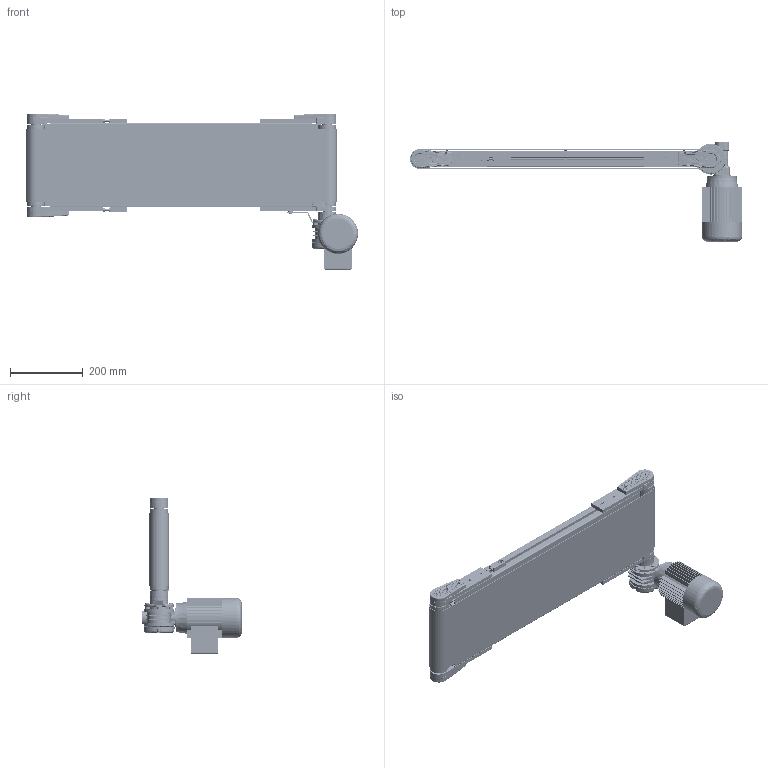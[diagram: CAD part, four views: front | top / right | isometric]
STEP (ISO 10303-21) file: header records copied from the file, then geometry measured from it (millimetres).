
FILE_DESCRIPTION (( 'STEP AP203' ), '1' );
FILE_NAME ('NASTRO_RETTILINEO_TAPPETO.step', '2026-06-04T12:06:02', ( 'Utente Windows' ), ( '' ), 'SwSTEP 2.0', 'SolidWorks 2024', '' );
FILE_SCHEMA (( 'CONFIG_CONTROL_DESIGN' ));
Length unit declared in the file: millimetre
Products named in the file (44): 084.302.000 DADI ALUSIC 13x13_084.302.004; TELAIO_50_STANDARD_Default<A macchina>; 084.303.001; VITI TSEI UNI 5933_M5x12 UNI 5933; 084.810.001; BLOCCO_RINVIO_50_STANDARD; 084.808.012; VITI TE UNI 5739_M6x16 UNI 5739; 084.802.008; 084.802.071; VITI TSEI UNI 5933_M4x10 UNI 5933; 084.802.061; VITE_DADO_M5X12; 084.811.004; VITI TCEI UNI 5931_M4x25 UNI 5931; 084.301.000 VITI ALUSIC_084.301.003; RONDELLE FASCIA LARGA UNI 6593_5.4x20 UNI 6593; 084.807.002_084.807.002; VITI TCEI UNI 5931_M6x12 UNI 5931; NASTRO_RETTILINEO_TAPPETO; 084.301.000 VITI ALUSIC_084.301.009; RULLO_50_Default<A macchina>; TAPPETO_STANDARD; CHIAVETTE_A 5x5x20 UNI 6604-69; LAMIERA_STANDARD; 084.802.017_084.802.017; BLOCCO_BRACCIO_CH03P_VF30P; 084.302.000 DADI ALUSIC 13x13-1_084.302.004; CH03P_SX; VITE_RONDELLA_M8X20; 084.811.001; 14UNI7435; 084.302.000 DADI ALUSIC 13x13-1_084.302.007; 084.803.018; 084.802.066_Default<A macchina>; BLOCCO_PERNO_50_30; BLOCCO_PERNO_50_RINVIO; 084.802.062; VITI TSEI UNI 5933 INOX_0412UNI5933A2; CHIAVETTE_A 5x5x40 UNI 6604-69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
Assembly tree (80 placements, depth 4):
  NASTRO_RETTILINEO_TAPPETO
    TAPPETO_STANDARD
    TELAIO_50_STANDARD_Default<A macchina>
    LAMIERA_STANDARD
    RULLO_50_Default<A macchina>  x2
    BLOCCO_PERNO_50_RINVIO  x3
      084.811.004
      084.810.001
    BLOCCO_TRAINO_50_STANDARD
      084.807.002_084.807.002
      084.802.017_084.802.017
      084.301.000 VITI ALUSIC_084.301.003  x2
      084.302.000 DADI ALUSIC 13x13-1_084.302.004  x2
      084.802.071
      VITI TSEI UNI 5933 INOX_0412UNI5933A2  x2
    BLOCCO_PERNO_50_30
      084.810.001
      084.811.001
      RONDELLE FASCIA LARGA UNI 6593_5.4x20 UNI 6593
      084.301.000 VITI ALUSIC_084.301.009
      CHIAVETTE_A 5x5x40 UNI 6604-69
      CHIAVETTE_A 5x5x20 UNI 6604-69
      14UNI7435
    BLOCCO_TRAINO_50_STANDARD_30_SX_Motore a Sx
      084.807.003_084.807.003<A macchina>
      084.802.017_084.802.017
      084.301.000 VITI ALUSIC_084.301.003  x2
      084.302.000 DADI ALUSIC 13x13-1_084.302.004  x2
      BLOCCO_BRACCIO_CH03P_VF30P
        084.808.012
        084.802.062
        0820ISO2342
        084.802.061
        VITI TE UNI 5739_M6x16 UNI 5739  x4
        084.803.018
        VITI TCEI UNI 5931_M6x12 UNI 5931  x4
      084.802.066_Default<A macchina>
      VITI TCEI UNI 5931_M4x25 UNI 5931  x2
    BLOCCO_RINVIO_50_STANDARD  x2
      084.807.002_084.807.002
      084.802.017_084.802.017
      084.802.008
      084.301.000 VITI ALUSIC_084.301.003
      084.302.000 DADI ALUSIC 13x13_084.302.004
      VITI TSEI UNI 5933_M4x10 UNI 5933
      084.802.071
    VITE_RONDELLA_M8X20  x3
      084.303.001
      084.301.000 VITI ALUSIC_084.301.003
    VITE_DADO_M5X12  x6
      084.302.000 DADI ALUSIC 13x13-1_084.302.007
      VITI TSEI UNI 5933_M5x12 UNI 5933
    CH03P_SX
Bounding box: 912 x 273 x 430.4 mm (x, y, z)
Volume: 4928900.8 mm3; surface area: 2879397.1 mm2
Topology: 114 solids, 120 shells, 6108 faces, 15814 edges, 10123 vertices
Faces by surface type: plane 3030, cylinder 1666, cone 541, bspline 520, torus 317, sphere 34
Entity records: 138331 total; most frequent: CARTESIAN_POINT 42104, ORIENTED_EDGE 19726, DIRECTION 17971, EDGE_CURVE 9863, VERTEX_POINT 6350, AXIS2_PLACEMENT_3D 6163, LINE 5645, VECTOR 5645
